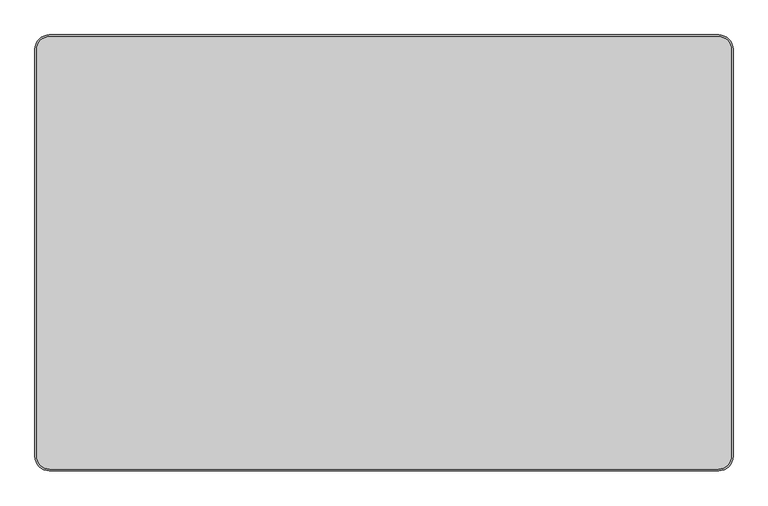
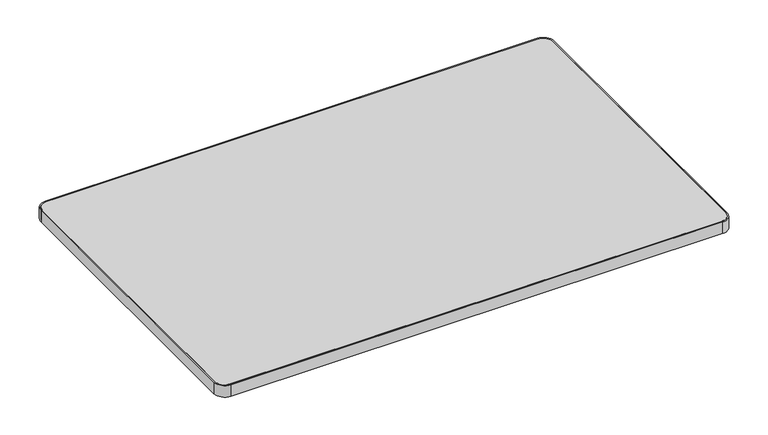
"""IFC4 building model written with IfcOpenShell, lengths in millimetres: furniture geometry, Steelcase - Groupwork - Table - Top - Rectangular : 30D x 48W - HPL."""

import ifcopenshell
import ifcopenshell.guid

model = None  # the IFC model being written
_history = None  # IfcOwnerHistory: only IFC2X3 demands one
_inside = {}  # id of a spatial element -> (the spatial element, [elements in it])
_under = {}  # id of a project, library or spatial element -> (it, [spatial elements below it])
_declared = {}  # id of a project -> (the project, [libraries it declares])
_typed = {}  # id of a type object -> (the type object, [elements of that type])
_made_of = {}  # id of a material, layer set ... -> (it, [elements and type objects made of it])


def new_model(schema):
    """Start an empty IFC model of exactly this schema.

    Asked for "IFC4X3", IfcOpenShell would pick the latest addendum, in which some entities
    have other attributes; the version numbers below select the first issue.
    IFC2X3 requires an IfcOwnerHistory on every rooted entity: one is made here for all.
    """
    global model, _history
    if schema == "IFC4X3":
        model = ifcopenshell.file(schema_version=(4, 3, 0, 0))
    else:
        model = ifcopenshell.file(schema=schema)
    _inside.clear()
    _under.clear()
    _declared.clear()
    _typed.clear()
    _made_of.clear()
    _history = None
    if model.schema == "IFC2X3":
        org = make("IfcOrganization", Name="unknown")
        user = make(
            "IfcPersonAndOrganization",
            ThePerson=make("IfcPerson", FamilyName="unknown"),
            TheOrganization=org,
        )
        app = make(
            "IfcApplication",
            ApplicationDeveloper=org,
            Version="unknown",
            ApplicationFullName="unknown",
            ApplicationIdentifier="unknown",
        )
        _history = make(
            "IfcOwnerHistory",
            OwningUser=user,
            OwningApplication=app,
            ChangeAction="ADDED",
            CreationDate=0,
        )
    return model


def make(cls, **values):
    """One entity of the class cls with the attributes given. An attribute that is None is left unset."""
    return model.create_entity(
        cls, **{name: value for name, value in values.items() if value is not None}
    )


def rooted(cls, **values):
    """An entity with a GlobalId (a new one), such as an element, a storey or a relation."""
    return make(cls, GlobalId=ifcopenshell.guid.new(), OwnerHistory=_history, **values)


def si_unit(unit_type, name, prefix=None):
    """IfcSIUnit, for example si_unit("LENGTHUNIT", "METRE", prefix="MILLI")."""
    return make("IfcSIUnit", UnitType=unit_type, Prefix=prefix, Name=name)


def assignment(units):
    """IfcUnitAssignment: the units of a project."""
    return None if units is None else make("IfcUnitAssignment", Units=units)


def point(xyz):
    """IfcCartesianPoint."""
    return None if xyz is None else make("IfcCartesianPoint", Coordinates=xyz)


def direction(xyz):
    """IfcDirection."""
    return None if xyz is None else make("IfcDirection", DirectionRatios=xyz)


def frame(location, z_axis=None, x_axis=None):
    """IfcAxis2Placement3D, a coordinate frame: its origin and axes. An axis left out is left unset."""
    return make(
        "IfcAxis2Placement3D",
        Location=point(location),
        Axis=direction(z_axis),
        RefDirection=direction(x_axis),
    )


def frame_2d(location, x_axis=None):
    """IfcAxis2Placement2D, a coordinate frame in the plane: its origin and x axis."""
    return make(
        "IfcAxis2Placement2D", Location=point(location), RefDirection=direction(x_axis)
    )


def origin():
    """The frame at (0, 0, 0) with its axes left unset."""
    return frame((0.0, 0.0, 0.0))


def place(relative_to, where):
    """IfcLocalPlacement: puts the frame where relative to a parent placement (None: the world)."""
    return make(
        "IfcLocalPlacement", PlacementRelTo=relative_to, RelativePlacement=where
    )


def context(
    kind, dimensions, precision=None, world=None, true_north=None, identifier=None
):
    """IfcGeometricRepresentationContext, for example the 3D "Model" context."""
    return make(
        "IfcGeometricRepresentationContext",
        ContextIdentifier=identifier,
        ContextType=kind,
        CoordinateSpaceDimension=dimensions,
        Precision=precision,
        WorldCoordinateSystem=world,
        TrueNorth=true_north,
    )


def project(units=None, contexts=None):
    """IfcProject with its units and contexts."""
    return rooted(
        "IfcProject",
        Name="project",
        RepresentationContexts=contexts,
        UnitsInContext=assignment(units),
    )


def spatial(cls, under=None, at=None, **own):
    """A site, building, storey or space (cls), placed at a placement, below another one or the project."""
    s = rooted(cls, ObjectPlacement=at, **own)
    if under is not None:
        _under.setdefault(under.id(), (under, []))[1].append(s)
    return s


def polyline(points):
    """IfcPolyline through the points."""
    return make("IfcPolyline", Points=[point(p) for p in points])


def circle_curve(where, radius):
    """IfcCircle in the frame where."""
    return make("IfcCircle", Position=where, Radius=radius)


def trimmed(basis, trim1, trim2, sense, master):
    """IfcTrimmedCurve: the piece of a basis curve between two trims."""
    return make(
        "IfcTrimmedCurve",
        BasisCurve=basis,
        Trim1=trim1,
        Trim2=trim2,
        SenseAgreement=sense,
        MasterRepresentation=master,
    )


def segment(curve, same_sense, transition):
    """IfcCompositeCurveSegment."""
    return make(
        "IfcCompositeCurveSegment",
        Transition=transition,
        SameSense=same_sense,
        ParentCurve=curve,
    )


def composite_curve(segments, self_intersect=None):
    """IfcCompositeCurve: segments joined end to end."""
    return make("IfcCompositeCurve", Segments=segments, SelfIntersect=self_intersect)


def outline(outer, holes=None, kind="AREA"):
    """IfcArbitraryClosedProfileDef: a profile drawn as a closed curve; with holes, ...WithVoids."""
    if holes is None:
        return make("IfcArbitraryClosedProfileDef", ProfileType=kind, OuterCurve=outer)
    return make(
        "IfcArbitraryProfileDefWithVoids",
        ProfileType=kind,
        OuterCurve=outer,
        InnerCurves=holes,
    )


def extrude(swept, where, along, depth):
    """IfcExtrudedAreaSolid: the profile swept, set in the frame where, extruded along a direction by depth."""
    return make(
        "IfcExtrudedAreaSolid",
        SweptArea=swept,
        Position=where,
        ExtrudedDirection=direction(along),
        Depth=depth,
    )


def shape(context_of_items, identifier, shape_type, items):
    """IfcShapeRepresentation: the items that make up one representation, for example the "Body"."""
    return make(
        "IfcShapeRepresentation",
        ContextOfItems=context_of_items,
        RepresentationIdentifier=identifier,
        RepresentationType=shape_type,
        Items=items,
    )


def source(mapping_origin, context_of_items, identifier, shape_type, items):
    """IfcRepresentationMap: a shape defined once, which mapped items show again and again."""
    return make(
        "IfcRepresentationMap",
        MappingOrigin=mapping_origin,
        MappedRepresentation=shape(context_of_items, identifier, shape_type, items),
    )


def transform(
    local_origin,
    x_axis=None,
    y_axis=None,
    z_axis=None,
    scale=None,
    scale2=None,
    scale3=None,
    uniform=True,
):
    """IfcCartesianTransformationOperator3D, or its non-uniform kind. x_axis, y_axis, z_axis: its Axis1, 2, 3."""
    if uniform:
        return make(
            "IfcCartesianTransformationOperator3D",
            Axis1=direction(x_axis),
            Axis2=direction(y_axis),
            LocalOrigin=point(local_origin),
            Scale=scale,
            Axis3=direction(z_axis),
        )
    return make(
        "IfcCartesianTransformationOperator3DnonUniform",
        Axis1=direction(x_axis),
        Axis2=direction(y_axis),
        LocalOrigin=point(local_origin),
        Scale=scale,
        Axis3=direction(z_axis),
        Scale2=scale2,
        Scale3=scale3,
    )


def mapped(mapping_source, mapping_target):
    """IfcMappedItem: shows the shape of a source again, moved by a transform."""
    return make(
        "IfcMappedItem", MappingSource=mapping_source, MappingTarget=mapping_target
    )


def made_of(thing, what):
    """Note that an element or type object is made of a material, layer set ...; save() writes the relation."""
    if what is not None:
        _made_of.setdefault(what.id(), (what, []))[1].append(thing)
    return thing


def element(
    cls,
    number,
    at=None,
    inside=None,
    cuts=None,
    type_object=None,
    material=None,
    context=None,
    identifier="Body",
    shape_type=None,
    held_by="IfcProductDefinitionShape",
    body=None,
    shapes=None,
    **own,
):
    """One element of the class cls, such as IfcWall. Its Tag is "e" and its number.

    at: its placement. inside: the storey or other place that contains it. cuts: it is an
    opening in that element (IfcRelVoidsElement). A single representation is given by context,
    identifier, shape_type and body (its items); several are given by shapes. held_by: the class
    of the entity that holds the representations. save() writes the other relations.
    """
    e = rooted(cls, Tag="e%d" % number, ObjectPlacement=at, **own)
    if body is not None:
        shapes = [shape(context, identifier, shape_type, body)]
    if shapes is not None:
        e.Representation = make(held_by, Representations=shapes)
    if inside is not None:
        _inside.setdefault(inside.id(), (inside, []))[1].append(e)
    if cuts is not None:
        rooted(
            "IfcRelVoidsElement", RelatingBuildingElement=cuts, RelatedOpeningElement=e
        )
    if type_object is not None:
        _typed.setdefault(type_object.id(), (type_object, []))[1].append(e)
    return made_of(e, material)


def aggregate(whole, parts):
    """IfcRelAggregates: a whole, such as a stair, and the parts it consists of."""
    return rooted("IfcRelAggregates", RelatingObject=whole, RelatedObjects=parts)


def save(model, path):
    """Write the relations noted so far, then the file.

    IfcRelAggregates (storeys below a building ...), IfcRelContainedInSpatialStructure (elements
    in a storey), IfcRelDefinesByType, IfcRelAssociatesMaterial and IfcRelDeclares: one each for
    every whole, place, type object, material and project.
    """
    for whole, parts in _under.values():
        aggregate(whole, parts)
    for where, things in _inside.values():
        rooted(
            "IfcRelContainedInSpatialStructure",
            RelatedElements=things,
            RelatingStructure=where,
        )
    for kind, things in _typed.values():
        rooted("IfcRelDefinesByType", RelatedObjects=things, RelatingType=kind)
    for what, things in _made_of.values():
        rooted("IfcRelAssociatesMaterial", RelatedObjects=things, RelatingMaterial=what)
    for by, libraries in _declared.values():
        rooted("IfcRelDeclares", RelatingContext=by, RelatedDefinitions=libraries)
    model.write(path)


def furniture_8935219b(model_context):
    return source(origin(), model_context, "Body", "SweptSolid", [
        extrude(outline(composite_curve([segment(polyline([(-612.14, 378.0), (555.34, 378.0)]), True, "CONTINUOUS"), segment(trimmed(circle_curve(frame_2d((555.34, 355.14)), 22.86), [point((555.34, 378.0))], [point((578.2, 355.14))], False, "CARTESIAN"), True, "CONTINUOUS"), segment(polyline([(578.2, 355.14), (578.2, -355.14)]), True, "CONTINUOUS"), segment(trimmed(circle_curve(frame_2d((555.34, -355.14)), 22.86), [point((578.2, -355.14))], [point((555.34, -378.0))], False, "CARTESIAN"), True, "CONTINUOUS"), segment(polyline([(555.34, -378.0), (-612.14, -378.0)]), True, "CONTINUOUS"), segment(trimmed(circle_curve(frame_2d((-612.14, -355.14)), 22.86), [point((-612.14, -378.0))], [point((-635.0, -355.14))], False, "CARTESIAN"), True, "CONTINUOUS"), segment(polyline([(-635.0, -355.14), (-635.0, 355.14)]), True, "CONTINUOUS"), segment(trimmed(circle_curve(frame_2d((-612.14, 355.14)), 22.86), [point((-635.0, 355.14))], [point((-612.14, 378.0))], False, "CARTESIAN"), True, "CONTINUOUS")], self_intersect=False)), frame((0.0, 0.0, 694.944), z_axis=(0.0, 0.0, 1.0), x_axis=(1.0, 0.0, 0.0)), (0.0, 0.0, 1.0), 28.956),
        extrude(outline(composite_curve([segment(trimmed(circle_curve(frame_2d((555.7385373, 355.5385373)), 25.4614627), [point((555.7385373, 381.0))], [point((581.2, 355.5385373))], False, "CARTESIAN"), True, "CONTINUOUS"), segment(polyline([(581.2, 355.5385373), (581.2, -355.6211297)]), True, "CONTINUOUS"), segment(trimmed(circle_curve(frame_2d((555.8211297, -355.6211297)), 25.3788703), [point((581.2, -355.6211297))], [point((555.8211297, -381.0))], False, "CARTESIAN"), True, "CONTINUOUS"), segment(polyline([(555.8211297, -381.0), (-612.6, -381.0)]), True, "CONTINUOUS"), segment(trimmed(circle_curve(frame_2d((-612.6, -355.6)), 25.4), [point((-612.6, -381.0))], [point((-638.0, -355.6))], False, "CARTESIAN"), True, "CONTINUOUS"), segment(polyline([(-638.0, -355.6), (-638.0, 355.6)]), True, "CONTINUOUS"), segment(trimmed(circle_curve(frame_2d((-612.6, 355.6)), 25.4), [point((-638.0, 355.6))], [point((-612.6, 381.0))], False, "CARTESIAN"), True, "CONTINUOUS"), segment(polyline([(-612.6, 381.0), (555.7385373, 381.0)]), True, "CONTINUOUS")], self_intersect=False), holes=[composite_curve([segment(polyline([(555.4064662, 378.0), (-612.14, 378.0)]), True, "CONTINUOUS"), segment(trimmed(circle_curve(frame_2d((-612.14, 355.14)), 22.86), [point((-612.14, 378.0))], [point((-635.0, 355.14))], True, "CARTESIAN"), True, "CONTINUOUS"), segment(polyline([(-635.0, 355.14), (-635.0, -355.14)]), True, "CONTINUOUS"), segment(trimmed(circle_curve(frame_2d((-612.14, -355.14)), 22.86), [point((-635.0, -355.14))], [point((-612.14, -378.0))], True, "CARTESIAN"), True, "CONTINUOUS"), segment(polyline([(-612.14, -378.0), (555.173488, -378.0)]), True, "CONTINUOUS"), segment(trimmed(circle_curve(frame_2d((555.173488, -354.973488)), 23.026512), [point((555.173488, -378.0))], [point((578.2, -354.973488))], True, "CARTESIAN"), True, "CONTINUOUS"), segment(polyline([(578.2, -354.973488), (578.2, 355.2064662)]), True, "CONTINUOUS"), segment(trimmed(circle_curve(frame_2d((555.4064662, 355.2064662)), 22.7935338), [point((578.2, 355.2064662))], [point((555.4064662, 378.0))], True, "CARTESIAN"), True, "CONTINUOUS")], self_intersect=False)]), frame((0.0, 0.0, 694.944), z_axis=(0.0, 0.0, 1.0), x_axis=(1.0, 0.0, 0.0)), (0.0, 0.0, 1.0), 28.956),
    ])


if __name__ == "__main__":
    model = new_model("IFC4")
    model_context = context("Model", 3, world=origin())
    ifc_project = project(units=[si_unit("LENGTHUNIT", "METRE", prefix="MILLI")], contexts=[model_context])
    site = spatial("IfcSite", under=ifc_project)
    building = spatial("IfcBuilding", under=site)
    placement = place(None, origin())
    furniture_shape = furniture_8935219b(model_context)
    element("IfcFurniture", 1, ObjectType="Steelcase - Groupwork - Table - Top - Rectangular : 30D x 48W - HPL", at=placement, inside=building, context=model_context, shape_type="MappedRepresentation", body=[
        mapped(furniture_shape, transform((0.0, 0.0, 0.0), x_axis=(1.0, 0.0, 0.0), y_axis=(0.0, 1.0, 0.0), z_axis=(0.0, 0.0, 1.0))),
    ])
    save(model, "model.ifc")
